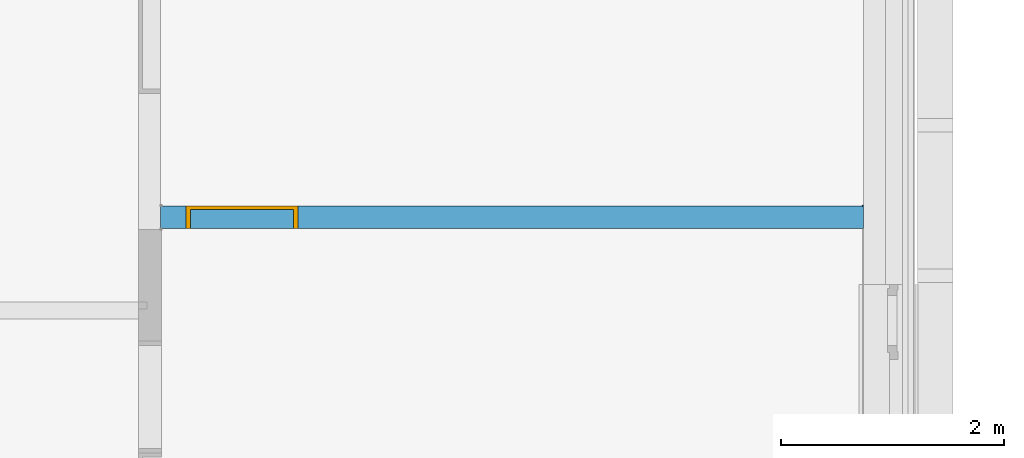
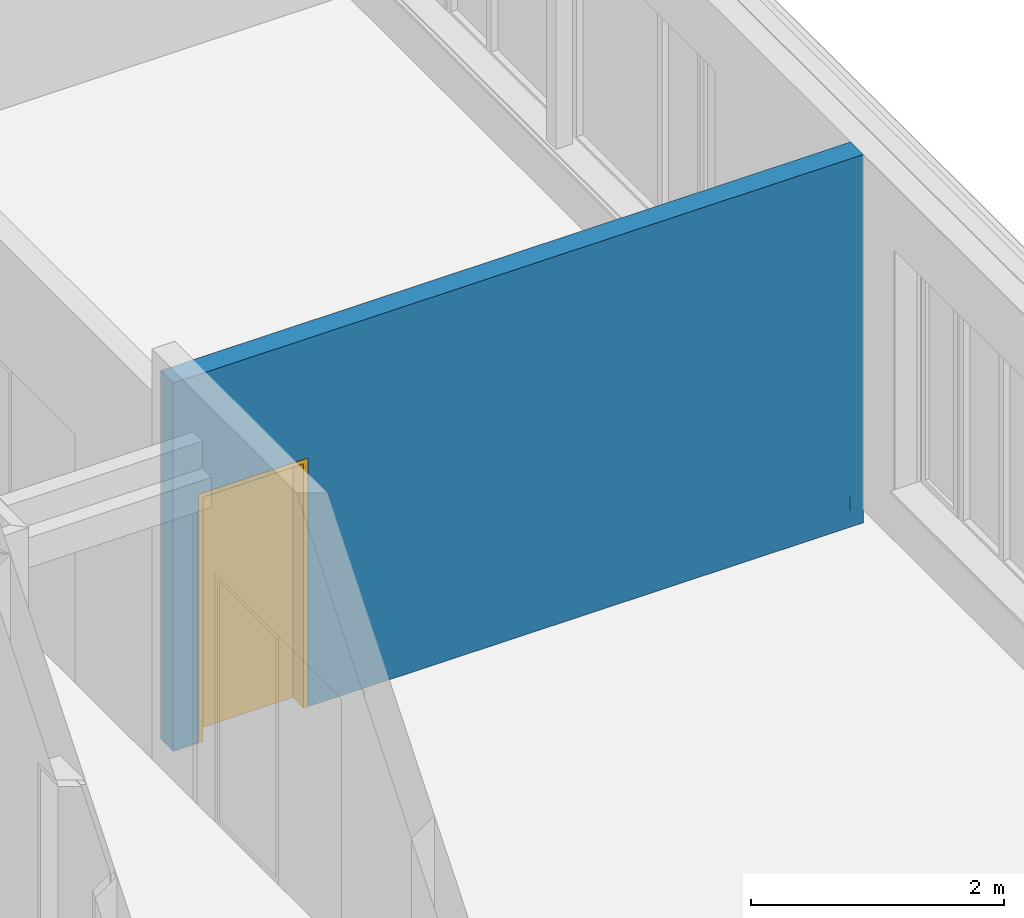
# One storey, part 83 of 89: 2 building element parts, 1 door, 1 opening, 1 element without a shape of its own.
"""IFC2X3 building model written with IfcOpenShell, lengths in millimetres."""

from ifc_helpers import new_model, entity, si_unit, converted_unit, derived_unit, money_unit, direction, frame, origin_with_axes, origin_2d_with_axis, place, context, subcontext, project, spatial, polyline, rectangle, outline, extrude, boolean, faceted_brep, material, type_object, element, fill, aggregate, save


model = new_model("IFC2X3")

# Units and contexts
model_context = context("Model", 3, precision=0.01, world=origin_with_axes(), true_north=direction((0.0, 1.0)))
body_context = subcontext(model_context, "Body", "Model", "MODEL_VIEW")
ifc_project = project(units=[si_unit("LENGTHUNIT", "METRE", prefix="MILLI"), si_unit("AREAUNIT", "SQUARE_METRE"), si_unit("VOLUMEUNIT", "CUBIC_METRE"), converted_unit("PLANEANGLEUNIT", "DEGREE", entity("IfcPlaneAngleMeasure", 0.0174532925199), si_unit("PLANEANGLEUNIT", "RADIAN"), dimensions=[0, 0, 0, 0, 0, 0, 0]), si_unit("SOLIDANGLEUNIT", "STERADIAN"), money_unit("EUR"), converted_unit("TIMEUNIT", "Year", entity("IfcTimeMeasure", 31556926.0), si_unit("TIMEUNIT", "SECOND"), dimensions=[0, 0, 1, 0, 0, 0, 0]), si_unit("MASSUNIT", "GRAM", prefix="KILO"), si_unit("THERMODYNAMICTEMPERATUREUNIT", "DEGREE_CELSIUS"), si_unit("LUMINOUSINTENSITYUNIT", "LUMEN"), si_unit("ENERGYUNIT", "JOULE", prefix="MEGA"), derived_unit("THERMALCONDUCTANCEUNIT", [(si_unit("POWERUNIT", "WATT"), 1), (si_unit("LENGTHUNIT", "METRE"), -1), (si_unit("THERMODYNAMICTEMPERATUREUNIT", "KELVIN"), -1)]), derived_unit("SPECIFICHEATCAPACITYUNIT", [(si_unit("ENERGYUNIT", "JOULE"), 1), (si_unit("MASSUNIT", "GRAM", prefix="KILO"), -1), (si_unit("THERMODYNAMICTEMPERATUREUNIT", "KELVIN"), -1)]), derived_unit("MASSDENSITYUNIT", [(si_unit("MASSUNIT", "GRAM", prefix="KILO"), 1), (si_unit("VOLUMEUNIT", "CUBIC_METRE"), -1)])], contexts=[model_context])

# Site, building, storey
site_placement = place(None, origin_with_axes())
site = spatial("IfcSite", under=ifc_project, at=site_placement, Name="Puškini 31, Narva", CompositionType="ELEMENT")
building_placement = place(site_placement, origin_with_axes())
building = spatial("IfcBuilding", under=site, at=building_placement, Name="Narva Riigigümnaasium", CompositionType="ELEMENT")
storey_placement = place(building_placement, frame((0.0, 0.0, -3300.0), z_axis=(0.0, 0.0, 1.0), x_axis=(1.0, 0.0, 0.0)))
storey = spatial("IfcBuildingStorey", under=building, at=storey_placement, Name="1.korrus -3.3", CompositionType="ELEMENT", Elevation=-3300.0)

# Door
door_style = type_object("IfcDoorStyle", Name="Door 23", ConstructionType="NOTDEFINED", OperationType="SINGLE_SWING_LEFT", ParameterTakesPrecedence=False, Sizeable=False)
wall_placement = place(storey_placement, frame((47499.9999928, 206910.000002, 0.0), z_axis=(0.0, 0.0, 1.0), x_axis=(1.0, 0.0, 0.0)))
opening_placement = place(wall_placement, frame((929.999908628, 0.0, 0.0), z_axis=(0.0, 0.0, 1.0), x_axis=(1.0, 0.0, 0.0)))
door_placement = place(opening_placement, frame((-500.0, 0.0, 0.0), z_axis=(0.0, 0.0, 1.0), x_axis=(1.0, 0.0, 0.0)))
door = element("IfcDoor", 1, at=door_placement, inside=storey, type_object=door_style, Name="G-SU-035-2", ObjectType="DOOR", OverallHeight=2400.0, OverallWidth=1000.0, context=body_context, shape_type="Brep", body=[
    faceted_brep([(1000.0, 200.0, 0.0), (1000.0, 200.0, 2360.0), (1000.0, 0.0, 2360.0), (1000.0, 0.0, 0.0), (960.0, 200.0, 2360.0), (960.0, 200.0, 0.0), (960.0, 0.0, 2360.0), (960.0, 0.0, 0.0)], [[[0, 1, 2, 3]], [[4, 1, 0, 5]], [[1, 4, 6, 2]], [[7, 3, 2, 6]], [[5, 0, 3, 7]], [[4, 5, 7, 6]]]),
    faceted_brep([(40.0, 200.0, 0.0), (40.0, 200.0, 2360.0), (40.0, 0.0, 2360.0), (40.0, 0.0, 0.0), (0.0, 200.0, 2360.0), (0.0, 200.0, 0.0), (0.0, 0.0, 2360.0), (0.0, 0.0, 0.0)], [[[0, 1, 2, 3]], [[4, 1, 0, 5]], [[1, 4, 6, 2]], [[6, 7, 3, 2]], [[5, 0, 3, 7]], [[4, 5, 7, 6]]]),
    faceted_brep([(1000.0, 200.0, 2360.0), (1000.0, 200.0, 2400.0), (1000.0, 0.0, 2400.0), (1000.0, 0.0, 2360.0), (0.0, 200.0, 2400.0), (960.0, 200.0, 2360.0), (40.0, 200.0, 2360.0), (0.0, 200.0, 2360.0), (0.0, 0.0, 2400.0), (0.0, 0.0, 2360.0), (40.0, 0.0, 2360.0), (960.0, 0.0, 2360.0)], [[[0, 1, 2, 3]], [[4, 1, 0, 5, 6, 7]], [[1, 4, 8, 2]], [[3, 2, 8, 9, 10, 11]], [[5, 0, 3, 11]], [[6, 5, 11, 10]], [[7, 6, 10, 9]], [[4, 7, 9, 8]]]),
    faceted_brep([(960.0, 200.0, 0.0), (960.0, 200.0, 2360.0), (960.0, 170.0, 2360.0), (960.0, 170.0, 0.0), (40.0, 200.0, 2360.0), (40.0, 200.0, 0.0), (40.0, 170.0, 2360.0), (40.0, 170.0, 0.0)], [[[0, 1, 2, 3]], [[4, 1, 0, 5]], [[1, 4, 6, 2]], [[6, 7, 3, 2]], [[5, 0, 3, 7]], [[4, 5, 7, 6]]]),
])

# Wall, opening
wall_type = type_object("IfcWallType", Name="G-SS-01-02 210", PredefinedType="NOTDEFINED")
wall = element("IfcWall", 2, at=wall_placement, inside=storey, type_object=wall_type, Name="Sisesein")
opening = element("IfcOpeningElement", 3, at=opening_placement, cuts=wall, Name="G-SU-035-2", context=body_context, shape_type="SweptSolid", body=[
    extrude(rectangle(XDim=1000.0, YDim=2400.0, at=origin_2d_with_axis()), frame((0.0, -210.0, 1200.0), z_axis=(0.0, -1.0, 0.0), x_axis=(-1.0, 0.0, 0.0)), (0.0, 0.0, -1.0), 630.0),
])

fill(opening, door)

# Building element part
ifc_material_1 = material(Name="siseviimistlus-seinad")
building_element_part_1_placement = place(wall_placement, origin_with_axes())
building_element_part_1 = element("IfcBuildingElementPart", 4, at=building_element_part_1_placement, material=ifc_material_1, Name="siseviimistlus-seinad", context=body_context, shape_type="CSG", body=[
    boolean("DIFFERENCE", boolean("DIFFERENCE", extrude(outline(polyline([(0.0, 200.0), (6958.00000824, 200.0), (6958.00000824, 210.0), (0.0, 210.0), (0.0, 200.0)])), origin_with_axes(), (0.0, 0.0, 1.0), 3565.0), faceted_brep([(6490.00000824, 210.0, 136.939766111), (6490.00000824, 210.0, 0.0), (0.0, 210.0, 0.0), (0.0, 210.0, 3565.0), (6958.00000824, 210.0, 3565.0), (6958.00000824, 210.0, 0.0), (6500.00000824, 210.0, 0.0), (6500.00000824, 210.0, 136.939766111), (6490.00000824, 200.0, 136.939766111), (6490.00000824, 200.0, 0.0), (0.0, 200.0, 0.0), (0.0, 200.0, 3565.0), (6958.00000824, 200.0, 3565.0), (6958.00000824, 200.0, 0.0), (6500.00000824, 200.000000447, 0.0), (6500.00000824, 200.00000043, 136.939766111)], [[[0, 1, 2, 3, 4, 5, 6, 7]], [[1, 0, 8, 9]], [[1, 9, 10, 2]], [[3, 2, 10, 11]], [[3, 11, 12, 4]], [[12, 13, 5, 4]], [[14, 6, 5, 13]], [[7, 6, 14, 15]], [[0, 7, 15, 8]], [[15, 14, 13, 12, 11, 10, 9, 8]]])), faceted_brep([(6500.00000824, 200.000000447, 0.0), (6500.00000824, 200.000000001, 3555.0), (6490.00000824, 200.0, 3555.0), (210.0, 200.0, 3555.0), (200.0, 200.0, 3555.0), (200.0, 200.00000002, 0.0), (0.0, 200.0, 0.0), (0.0, 200.0, 3565.0), (6958.00000824, 200.0, 3565.0), (6958.00000824, 200.0, 0.0), (6500.00000824, 0.0, 0.0), (6500.00000824, 0.0, 136.939766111), (6500.00000824, 0.0, 3555.0), (200.0, 0.0, 3555.0), (200.0, 0.0, 0.0), (0.0, 0.0, 0.0), (0.0, 0.0, 3565.0), (6958.00000824, 0.0, 3565.0), (6958.00000824, 0.0, 0.0)], [[[0, 1, 2, 3, 4, 5, 6, 7, 8, 9]], [[1, 0, 10, 11, 12]], [[2, 1, 12, 13, 4, 3]], [[5, 4, 13, 14]], [[5, 14, 15, 6]], [[7, 6, 15, 16]], [[7, 16, 17, 8]], [[17, 18, 9, 8]], [[10, 0, 9, 18]], [[11, 10, 18, 17, 16, 15, 14, 13, 12]]])),
])

ifc_material_2 = material(Name="Betoon element")
building_element_part_2_placement = place(wall_placement, origin_with_axes())
building_element_part_2 = element("IfcBuildingElementPart", 5, at=building_element_part_2_placement, material=ifc_material_2, Name="Betoon element", context=body_context, shape_type="CSG", body=[
    boolean("DIFFERENCE", boolean("DIFFERENCE", extrude(outline(polyline([(0.0, 0.0), (6958.00000824, 0.0), (6958.00000824, 200.0), (0.0, 200.0), (0.0, 0.0)])), origin_with_axes(), (0.0, 0.0, 1.0), 3565.0), faceted_brep([(6490.00000824, 210.0, 136.939766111), (6490.00000824, 210.0, 0.0), (0.0, 210.0, 0.0), (0.0, 210.0, 3565.0), (6958.00000824, 210.0, 3565.0), (6958.00000824, 210.0, 0.0), (6500.00000824, 210.0, 0.0), (6500.00000824, 210.0, 136.939766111), (6490.00000824, 200.0, 136.939766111), (6490.00000824, 200.0, 0.0), (0.0, 200.0, 0.0), (0.0, 200.0, 3565.0), (6958.00000824, 200.0, 3565.0), (6958.00000824, 200.0, 0.0), (6500.00000824, 200.000000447, 0.0), (6500.00000824, 200.00000043, 136.939766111)], [[[0, 1, 2, 3, 4, 5, 6, 7]], [[1, 0, 8, 9]], [[1, 9, 10, 2]], [[3, 2, 10, 11]], [[3, 11, 12, 4]], [[12, 13, 5, 4]], [[14, 6, 5, 13]], [[7, 6, 14, 15]], [[0, 7, 15, 8]], [[15, 14, 13, 12, 11, 10, 9, 8]]])), faceted_brep([(6500.00000824, 200.000000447, 0.0), (6500.00000824, 200.000000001, 3555.0), (6490.00000824, 200.0, 3555.0), (210.0, 200.0, 3555.0), (200.0, 200.0, 3555.0), (200.0, 200.00000002, 0.0), (0.0, 200.0, 0.0), (0.0, 200.0, 3565.0), (6958.00000824, 200.0, 3565.0), (6958.00000824, 200.0, 0.0), (6500.00000824, 0.0, 0.0), (6500.00000824, 0.0, 136.939766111), (6500.00000824, 0.0, 3555.0), (200.0, 0.0, 3555.0), (200.0, 0.0, 0.0), (0.0, 0.0, 0.0), (0.0, 0.0, 3565.0), (6958.00000824, 0.0, 3565.0), (6958.00000824, 0.0, 0.0)], [[[0, 1, 2, 3, 4, 5, 6, 7, 8, 9]], [[1, 0, 10, 11, 12]], [[2, 1, 12, 13, 4, 3]], [[5, 4, 13, 14]], [[5, 14, 15, 6]], [[7, 6, 15, 16]], [[7, 16, 17, 8]], [[17, 18, 9, 8]], [[10, 0, 9, 18]], [[11, 10, 18, 17, 16, 15, 14, 13, 12]]])),
])

aggregate(wall, [building_element_part_1, building_element_part_2])

save(model, "model.ifc")
